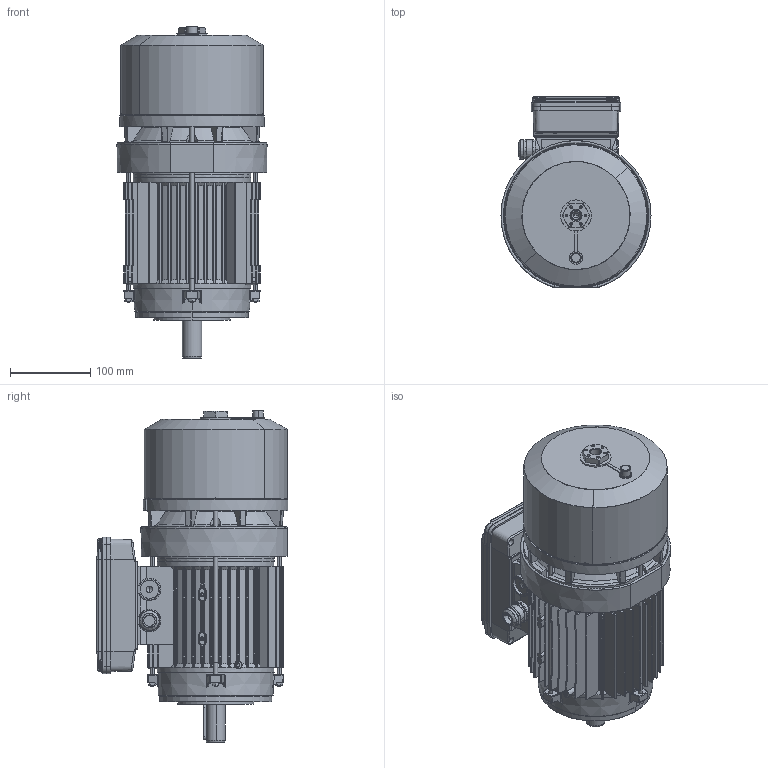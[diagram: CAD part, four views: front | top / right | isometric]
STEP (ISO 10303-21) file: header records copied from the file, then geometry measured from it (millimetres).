
FILE_DESCRIPTION (( 'STEP AP214' ), '1' );
FILE_NAME ('BA 90 S B14 - DM.STEP', '2020-06-20T02:06:19', ( '' ), ( '' ), 'SwSTEP 2.0', 'SolidWorks 2016', '' );
FILE_SCHEMA (( 'AUTOMOTIVE_DESIGN' ));
Length unit declared in the file: millimetre
Products named in the file (1): BA 90 S B14 - DM
Bounding box: 187 x 238.57 x 413.5 mm (x, y, z)
Surface area: 925853 mm2 (no closed solid volume)
Topology: 0 solids, 67 shells, 3386 faces, 9512 edges, 6162 vertices
Faces by surface type: plane 1201, cylinder 1027, bspline 752, cone 402, torus 4
Entity records: 189778 total; most frequent: CARTESIAN_POINT 73901, ORIENTED_EDGE 18150, DIRECTION 13428, EDGE_CURVE 9444, VERTEX_POINT 6162, AXIS2_PLACEMENT_3D 4753, VECTOR 3922, LINE 3922
